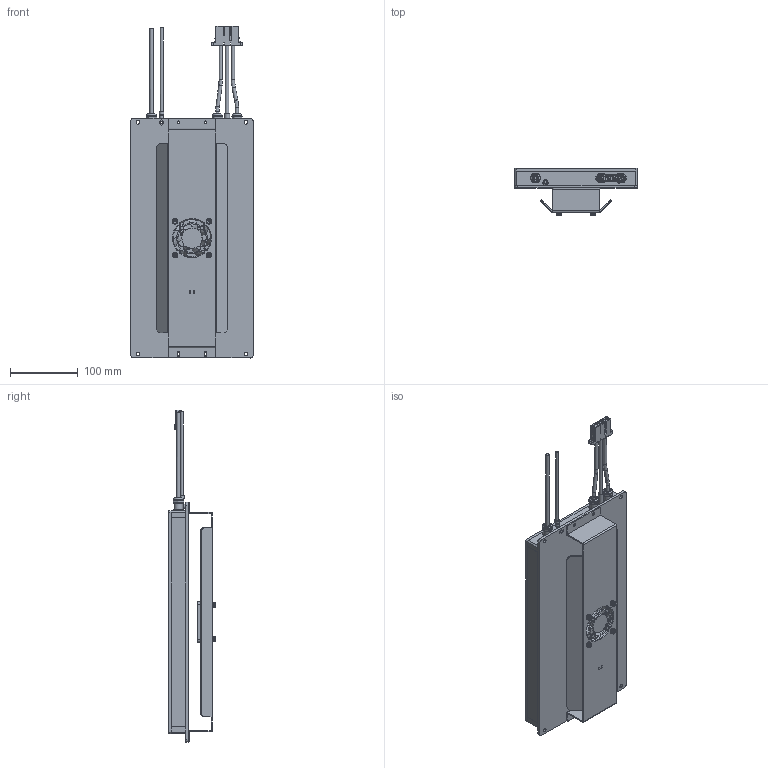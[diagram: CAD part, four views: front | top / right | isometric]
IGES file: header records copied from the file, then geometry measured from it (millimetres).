
Global section: file name: TWC-2500W-A-TXCOIL; native system: Autodesk Inventor 2021; preprocessor: unknown; author: eunsol jang; date: 20230508.171549; units: inch
Bounding box: 181 x 69.73 x 491.77 mm (x, y, z)
Volume: 834293.9 mm3; surface area: 401643.6 mm2
Topology: 3 solids, 3 shells, 2806 faces, 7478 edges, 4949 vertices
Faces by surface type: bspline 2806
